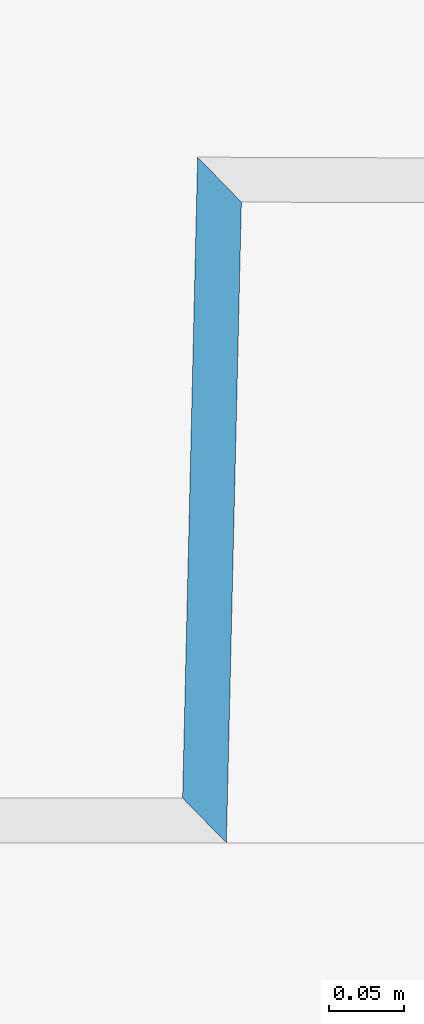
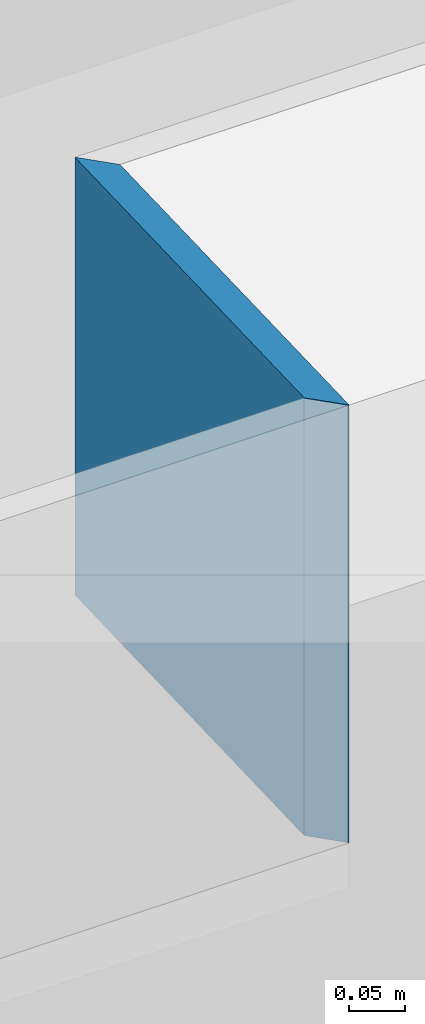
# One storey, part 51 of 158: 1 wall.
"""IFC2X3 building model written with IfcOpenShell, lengths in metres."""

from ifc_helpers import new_model, entity, si_unit, converted_unit, derived_unit, money_unit, direction, frame, origin_with_axes, place, context, subcontext, project, spatial, polyline, outline, extrude, material, layer, layer_set, layer_usage, type_object, element, save


model = new_model("IFC2X3")

# Units and contexts
model_context = context("Model", 3, precision=1e-05, world=origin_with_axes(), true_north=direction((0.0, 1.0)))
body_context = subcontext(model_context, "Body", "Model", "MODEL_VIEW")
ifc_project = project(units=[si_unit("LENGTHUNIT", "METRE"), si_unit("AREAUNIT", "SQUARE_METRE"), si_unit("VOLUMEUNIT", "CUBIC_METRE"), converted_unit("PLANEANGLEUNIT", "DEGREE", entity("IfcPlaneAngleMeasure", 0.0174532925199), si_unit("PLANEANGLEUNIT", "RADIAN"), dimensions=[0, 0, 0, 0, 0, 0, 0]), money_unit("EUR"), converted_unit("TIMEUNIT", "Year", entity("IfcTimeMeasure", 31556926.0), si_unit("TIMEUNIT", "SECOND"), dimensions=[0, 0, 1, 0, 0, 0, 0]), si_unit("MASSUNIT", "GRAM", prefix="KILO"), si_unit("THERMODYNAMICTEMPERATUREUNIT", "DEGREE_CELSIUS"), si_unit("LUMINOUSINTENSITYUNIT", "LUMEN"), si_unit("ENERGYUNIT", "JOULE", prefix="MEGA"), derived_unit("THERMALCONDUCTANCEUNIT", [(si_unit("POWERUNIT", "WATT"), 1), (si_unit("LENGTHUNIT", "METRE"), -1), (si_unit("THERMODYNAMICTEMPERATUREUNIT", "KELVIN"), -1)]), derived_unit("SPECIFICHEATCAPACITYUNIT", [(si_unit("ENERGYUNIT", "JOULE"), 1), (si_unit("MASSUNIT", "GRAM", prefix="KILO"), -1), (si_unit("THERMODYNAMICTEMPERATUREUNIT", "KELVIN"), -1)]), derived_unit("MASSDENSITYUNIT", [(si_unit("MASSUNIT", "GRAM", prefix="KILO"), 1), (si_unit("VOLUMEUNIT", "CUBIC_METRE"), -1)])], contexts=[model_context])

# Site, building, storey
site_placement = place(None, origin_with_axes())
site = spatial("IfcSite", under=ifc_project, at=site_placement, Name="Gelände", CompositionType="ELEMENT")
building_placement = place(site_placement, origin_with_axes())
building = spatial("IfcBuilding", under=site, at=building_placement, Name="Gebäude", CompositionType="ELEMENT")
storey_placement = place(building_placement, origin_with_axes())
storey = spatial("IfcBuildingStorey", under=building, at=storey_placement, Name="ERDGESCHOSS", CompositionType="ELEMENT", Elevation=0.0)

# Wall
ifc_material = material(Name="43_Gipskarton")
ifc_layer = layer(ifc_material, 0.03, ventilated="UNKNOWN")
ifc_layer_set = layer_set([ifc_layer], Name="43_Gipskarton 0.03")
ifc_layer_usage = layer_usage(ifc_layer_set, "AXIS2", "NEGATIVE", 0.03)
wall_type = type_object("IfcWallType", Name="43_Gipskarton 30", PredefinedType="ELEMENTEDWALL")
wall_placement = place(storey_placement, frame((30.1250003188, 27.4400584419, 2.88), z_axis=(0.0, 0.0, 1.0), x_axis=(0.0234074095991, 0.999726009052, 0.0)))
element("IfcWallStandardCase", 1, at=wall_placement, inside=storey, type_object=wall_type, material=ifc_layer_usage, Name="Wand-047", ObjectType="ELEMENTEDWALL", context=body_context, shape_type="SweptSolid", body=[
    extrude(outline(polyline([(0.0, 0.0), (0.429269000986, 0.0), (0.458674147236, 0.03), (0.0293022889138, 0.03), (0.0, 0.0)])), origin_with_axes(), (0.0, 0.0, 1.0), 0.48),
])

save(model, "model.ifc")
